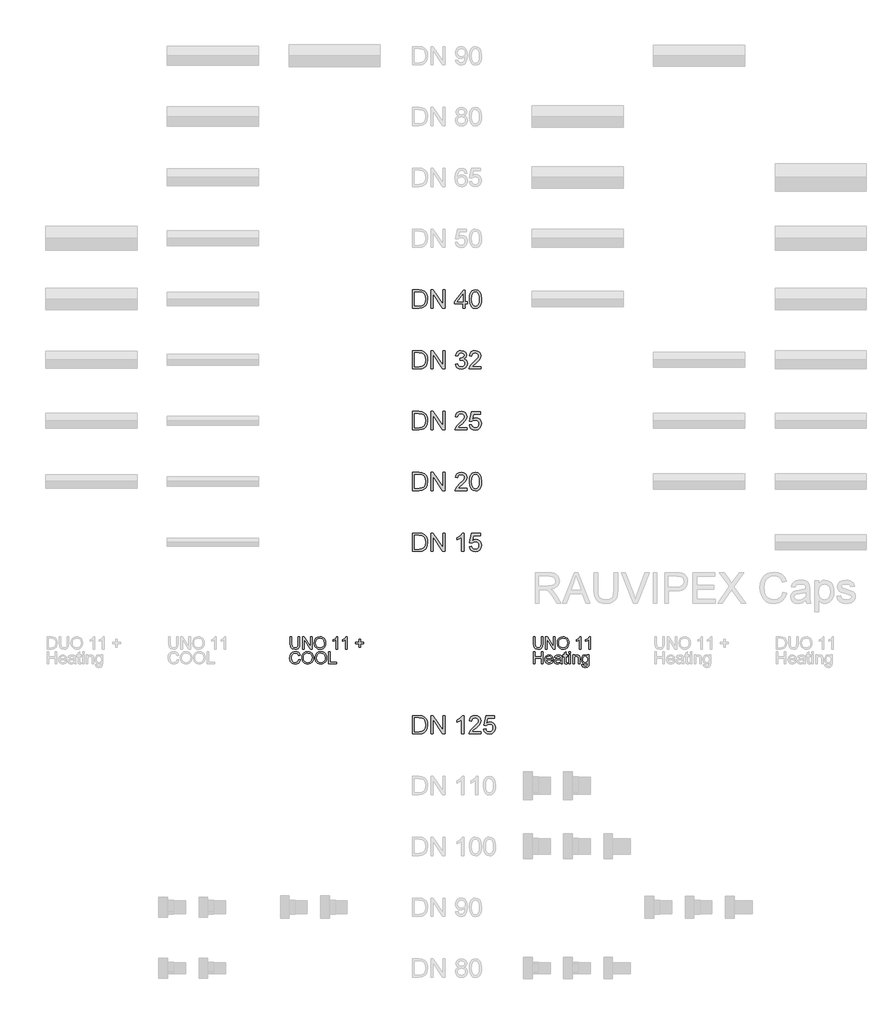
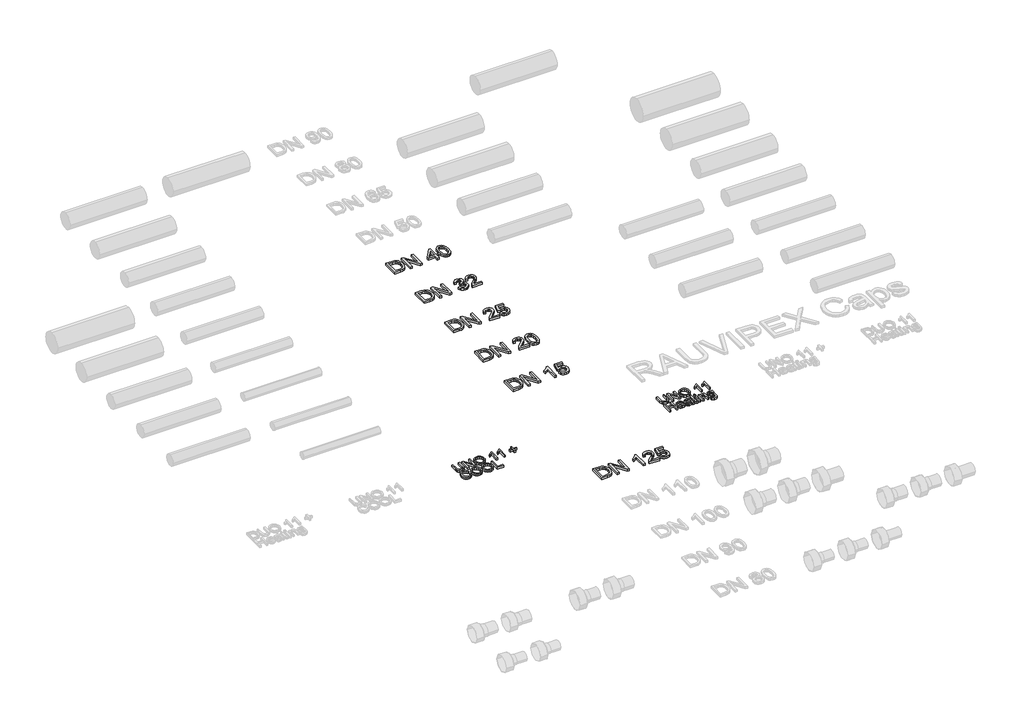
# One storey, part 27 of 44: 8 proxies.
"""IFC4 building model written with IfcOpenShell, lengths in millimetres."""

import ifcopenshell
import ifcopenshell.guid

model = None  # the IFC model being written
_history = None  # IfcOwnerHistory: only IFC2X3 demands one
_inside = {}  # id of a spatial element -> (the spatial element, [elements in it])
_under = {}  # id of a project, library or spatial element -> (it, [spatial elements below it])
_declared = {}  # id of a project -> (the project, [libraries it declares])
_typed = {}  # id of a type object -> (the type object, [elements of that type])
_made_of = {}  # id of a material, layer set ... -> (it, [elements and type objects made of it])


def new_model(schema):
    """Start an empty IFC model of exactly this schema.

    Asked for "IFC4X3", IfcOpenShell would pick the latest addendum, in which some entities
    have other attributes; the version numbers below select the first issue.
    IFC2X3 requires an IfcOwnerHistory on every rooted entity: one is made here for all.
    """
    global model, _history
    if schema == "IFC4X3":
        model = ifcopenshell.file(schema_version=(4, 3, 0, 0))
    else:
        model = ifcopenshell.file(schema=schema)
    _inside.clear()
    _under.clear()
    _declared.clear()
    _typed.clear()
    _made_of.clear()
    _history = None
    if model.schema == "IFC2X3":
        org = make("IfcOrganization", Name="unknown")
        user = make(
            "IfcPersonAndOrganization",
            ThePerson=make("IfcPerson", FamilyName="unknown"),
            TheOrganization=org,
        )
        app = make(
            "IfcApplication",
            ApplicationDeveloper=org,
            Version="unknown",
            ApplicationFullName="unknown",
            ApplicationIdentifier="unknown",
        )
        _history = make(
            "IfcOwnerHistory",
            OwningUser=user,
            OwningApplication=app,
            ChangeAction="ADDED",
            CreationDate=0,
        )
    return model


def make(cls, **values):
    """One entity of the class cls with the attributes given. An attribute that is None is left unset."""
    return model.create_entity(
        cls, **{name: value for name, value in values.items() if value is not None}
    )


def rooted(cls, **values):
    """An entity with a GlobalId (a new one), such as an element, a storey or a relation."""
    return make(cls, GlobalId=ifcopenshell.guid.new(), OwnerHistory=_history, **values)


def si_unit(unit_type, name, prefix=None):
    """IfcSIUnit, for example si_unit("LENGTHUNIT", "METRE", prefix="MILLI")."""
    return make("IfcSIUnit", UnitType=unit_type, Prefix=prefix, Name=name)


def assignment(units):
    """IfcUnitAssignment: the units of a project."""
    return None if units is None else make("IfcUnitAssignment", Units=units)


def point(xyz):
    """IfcCartesianPoint."""
    return None if xyz is None else make("IfcCartesianPoint", Coordinates=xyz)


def direction(xyz):
    """IfcDirection."""
    return None if xyz is None else make("IfcDirection", DirectionRatios=xyz)


def frame(location, z_axis=None, x_axis=None):
    """IfcAxis2Placement3D, a coordinate frame: its origin and axes. An axis left out is left unset."""
    return make(
        "IfcAxis2Placement3D",
        Location=point(location),
        Axis=direction(z_axis),
        RefDirection=direction(x_axis),
    )


def origin():
    """The frame at (0, 0, 0) with its axes left unset."""
    return frame((0.0, 0.0, 0.0))


def origin_with_axes():
    """The frame at (0, 0, 0) with the z axis (0, 0, 1) and the x axis (1, 0, 0) written out."""
    return frame((0.0, 0.0, 0.0), z_axis=(0.0, 0.0, 1.0), x_axis=(1.0, 0.0, 0.0))


def place(relative_to, where):
    """IfcLocalPlacement: puts the frame where relative to a parent placement (None: the world)."""
    return make(
        "IfcLocalPlacement", PlacementRelTo=relative_to, RelativePlacement=where
    )


def context(
    kind, dimensions, precision=None, world=None, true_north=None, identifier=None
):
    """IfcGeometricRepresentationContext, for example the 3D "Model" context."""
    return make(
        "IfcGeometricRepresentationContext",
        ContextIdentifier=identifier,
        ContextType=kind,
        CoordinateSpaceDimension=dimensions,
        Precision=precision,
        WorldCoordinateSystem=world,
        TrueNorth=true_north,
    )


def project(units=None, contexts=None):
    """IfcProject with its units and contexts."""
    return rooted(
        "IfcProject",
        Name="project",
        RepresentationContexts=contexts,
        UnitsInContext=assignment(units),
    )


def spatial(cls, under=None, at=None, **own):
    """A site, building, storey or space (cls), placed at a placement, below another one or the project."""
    s = rooted(cls, ObjectPlacement=at, **own)
    if under is not None:
        _under.setdefault(under.id(), (under, []))[1].append(s)
    return s


def polyline(points):
    """IfcPolyline through the points."""
    return make("IfcPolyline", Points=[point(p) for p in points])


def outline(outer, holes=None, kind="AREA"):
    """IfcArbitraryClosedProfileDef: a profile drawn as a closed curve; with holes, ...WithVoids."""
    if holes is None:
        return make("IfcArbitraryClosedProfileDef", ProfileType=kind, OuterCurve=outer)
    return make(
        "IfcArbitraryProfileDefWithVoids",
        ProfileType=kind,
        OuterCurve=outer,
        InnerCurves=holes,
    )


def extrude(swept, where, along, depth):
    """IfcExtrudedAreaSolid: the profile swept, set in the frame where, extruded along a direction by depth."""
    return make(
        "IfcExtrudedAreaSolid",
        SweptArea=swept,
        Position=where,
        ExtrudedDirection=direction(along),
        Depth=depth,
    )


def shape(context_of_items, identifier, shape_type, items):
    """IfcShapeRepresentation: the items that make up one representation, for example the "Body"."""
    return make(
        "IfcShapeRepresentation",
        ContextOfItems=context_of_items,
        RepresentationIdentifier=identifier,
        RepresentationType=shape_type,
        Items=items,
    )


def made_of(thing, what):
    """Note that an element or type object is made of a material, layer set ...; save() writes the relation."""
    if what is not None:
        _made_of.setdefault(what.id(), (what, []))[1].append(thing)
    return thing


def element(
    cls,
    number,
    at=None,
    inside=None,
    cuts=None,
    type_object=None,
    material=None,
    context=None,
    identifier="Body",
    shape_type=None,
    held_by="IfcProductDefinitionShape",
    body=None,
    shapes=None,
    **own,
):
    """One element of the class cls, such as IfcWall. Its Tag is "e" and its number.

    at: its placement. inside: the storey or other place that contains it. cuts: it is an
    opening in that element (IfcRelVoidsElement). A single representation is given by context,
    identifier, shape_type and body (its items); several are given by shapes. held_by: the class
    of the entity that holds the representations. save() writes the other relations.
    """
    e = rooted(cls, Tag="e%d" % number, ObjectPlacement=at, **own)
    if body is not None:
        shapes = [shape(context, identifier, shape_type, body)]
    if shapes is not None:
        e.Representation = make(held_by, Representations=shapes)
    if inside is not None:
        _inside.setdefault(inside.id(), (inside, []))[1].append(e)
    if cuts is not None:
        rooted(
            "IfcRelVoidsElement", RelatingBuildingElement=cuts, RelatedOpeningElement=e
        )
    if type_object is not None:
        _typed.setdefault(type_object.id(), (type_object, []))[1].append(e)
    return made_of(e, material)


def aggregate(whole, parts):
    """IfcRelAggregates: a whole, such as a stair, and the parts it consists of."""
    return rooted("IfcRelAggregates", RelatingObject=whole, RelatedObjects=parts)


def save(model, path):
    """Write the relations noted so far, then the file.

    IfcRelAggregates (storeys below a building ...), IfcRelContainedInSpatialStructure (elements
    in a storey), IfcRelDefinesByType, IfcRelAssociatesMaterial and IfcRelDeclares: one each for
    every whole, place, type object, material and project.
    """
    for whole, parts in _under.values():
        aggregate(whole, parts)
    for where, things in _inside.values():
        rooted(
            "IfcRelContainedInSpatialStructure",
            RelatedElements=things,
            RelatingStructure=where,
        )
    for kind, things in _typed.values():
        rooted("IfcRelDefinesByType", RelatedObjects=things, RelatingType=kind)
    for what, things in _made_of.values():
        rooted("IfcRelAssociatesMaterial", RelatedObjects=things, RelatingMaterial=what)
    for by, libraries in _declared.values():
        rooted("IfcRelDeclares", RelatingContext=by, RelatedDefinitions=libraries)
    model.write(path)


model = new_model("IFC4")

# Units and contexts
model_context = context("Model", 3, world=origin())
ifc_project = project(units=[si_unit("LENGTHUNIT", "METRE", prefix="MILLI")], contexts=[model_context])

# Site, building, storey
site = spatial("IfcSite", under=ifc_project)
building = spatial("IfcBuilding", under=site)
storey = spatial("IfcBuildingStorey", under=building, Name="REHAU Starting view", Elevation=0.0)

# Proxies
placement = place(None, origin())
element("IfcBuildingElementProxy", 1, Name="100", ObjectType="100", at=placement, inside=storey, context=model_context, shape_type="SweptSolid", body=[
    extrude(outline(polyline([(25076.9118625, 13222.431128), (25089.4689012, 13222.431128), (25089.4689012, 13164.477451), (25086.0598614, 13140.4547567), (25073.7726028, 13125.9847316), (25063.5086951, 13121.8000739), (25050.4734097, 13120.405188), (25027.529836, 13125.2612303), (25019.8901532, 13131.2055902), (25014.8011189, 13139.3265853), (25010.9874089, 13164.477451), (25010.9874089, 13222.431128), (25023.5444477, 13222.431128), (25023.5444477, 13164.9189094), (25026.0215198, 13145.7767829), (25034.5318566, 13136.2976902), (25049.2961874, 13132.9622268), (25062.067824, 13134.6115644), (25070.5597667, 13139.5595772), (25075.3238385, 13149.1980855), (25076.9118625, 13164.9189094), (25076.9118625, 13222.431128)])), origin_with_axes(), (0.0, 0.0, 1.0), 20.0),
    extrude(outline(polyline([(25111.4437191, 13121.9748178), (25111.4437191, 13222.431128), (25124.8836746, 13222.431128), (25177.3681726, 13142.8459897), (25177.3681726, 13222.431128), (25189.9252114, 13222.431128), (25189.9252114, 13121.9748178), (25176.4852558, 13121.9748178), (25124.0007578, 13201.5844816), (25124.0007578, 13121.9748178), (25111.4437191, 13121.9748178)])), origin_with_axes(), (0.0, 0.0, 1.0), 20.0),
    extrude(outline(polyline([(25207.1911397, 13170.8785977), (25210.5388658, 13193.0925389), (25220.5820443, 13209.8986147), (25235.9165921, 13220.4752221), (25255.1384264, 13224.0007578), (25268.3147332, 13222.3452889), (25280.1298766, 13217.3788819), (25289.9400631, 13209.4510249), (25297.1014993, 13198.9112058), (25301.479295, 13186.2683279), (25302.9385603, 13172.0312947), (25301.402653, 13157.6041891), (25296.794931, 13144.7835015), (25289.369846, 13134.2252883), (25279.3818499, 13126.5856055), (25267.667874, 13121.9502924), (25255.06485, 13120.405188), (25241.6862081, 13122.1127736), (25229.8036197, 13127.2355304), (25220.0179586, 13135.3105402), (25212.9300988, 13145.8748848), (25207.1911397, 13170.8785977)]), holes=[polyline([(25219.7481785, 13170.7559704), (25222.2589731, 13155.0412778), (25229.7913569, 13143.0667189), (25241.1129253, 13135.4883498), (25254.9912736, 13132.9622268), (25269.071957, 13135.5128753), (25280.4119195, 13143.1648208), (25287.889121, 13155.5072617), (25290.3815215, 13172.1293965), (25286.1140904, 13192.8534156), (25273.6428907, 13206.575414), (25255.2120028, 13211.4437191), (25241.7046022, 13209.0984714), (25230.2205526, 13202.0627282), (25222.366272, 13189.5455433), (25219.7481785, 13170.7559704)])]), origin_with_axes(), (0.0, 0.0, 1.0), 20.0),
    extrude(outline(polyline([(25401.8252406, 13121.9748178), (25389.2682018, 13121.9748178), (25389.2682018, 13200.2601064), (25377.3733507, 13191.7865578), (25364.1541243, 13185.4467247), (25364.1541243, 13197.3170505), (25382.5604868, 13209.0647488), (25393.7318367, 13222.431128), (25401.8252406, 13222.431128), (25401.8252406, 13121.9748178)])), origin_with_axes(), (0.0, 0.0, 1.0), 20.0),
    extrude(outline(polyline([(25478.7371031, 13121.9748178), (25466.1800643, 13121.9748178), (25466.1800643, 13200.2601064), (25454.2852131, 13191.7865578), (25441.0659868, 13185.4467247), (25441.0659868, 13197.3170505), (25459.4723492, 13209.0647488), (25470.6436992, 13222.431128), (25478.7371031, 13222.431128), (25478.7371031, 13121.9748178)])), origin_with_axes(), (0.0, 0.0, 1.0), 20.0),
    extrude(outline(polyline([(25576.0541535, 13137.6711163), (25576.0541535, 13164.3548237), (25549.3704461, 13164.3548237), (25549.3704461, 13176.9118625), (25576.0541535, 13176.9118625), (25576.0541535, 13203.5955698), (25588.6111923, 13203.5955698), (25588.6111923, 13176.9118625), (25615.2948997, 13176.9118625), (25615.2948997, 13164.3548237), (25588.6111923, 13164.3548237), (25588.6111923, 13137.6711163), (25576.0541535, 13137.6711163)])), origin_with_axes(), (0.0, 0.0, 1.0), 20.0),
    extrude(outline(polyline([(25081.620752, 13035.709079), (25094.1777908, 13032.4717174), (25088.3836493, 13017.8392111), (25079.2908327, 13007.1491734), (25067.3469306, 13000.610071), (25052.9995328, 12998.4303702), (25038.4344714, 13000.0797078), (25026.8676484, 13005.0277206), (25018.0016923, 13013.1027304), (25011.5392319, 13024.1330589), (25006.2785194, 13050.9884445), (25007.7653758, 13065.6362793), (25012.225945, 13078.2852886), (25019.427235, 13088.5338678), (25029.136254, 13095.9804125), (25040.6509605, 13100.5145581), (25053.2693129, 13102.02594), (25067.0372966, 13100.0700341), (25078.4201786, 13094.2023162), (25087.0623398, 13084.7845372), (25092.6081609, 13072.1784475), (25080.0511222, 13069.1863406), (25069.7504263, 13084.6251216), (25052.7788036, 13089.4689012), (25033.133905, 13084.0978241), (25022.0361315, 13069.6768499), (25018.8355582, 13051.01297), (25022.6247427, 13029.3815087), (25034.421492, 13015.5614084), (25051.748734, 13010.9874089), (25062.2303052, 13012.544776), (25070.9644369, 13017.2168774), (25077.5587216, 13024.954662), (25081.620752, 13035.709079)])), origin_with_axes(), (0.0, 0.0, 1.0), 20.0),
    extrude(outline(polyline([(25106.7348295, 13048.9037799), (25110.0825557, 13071.117721), (25120.1257342, 13087.9237968), (25135.460282, 13098.5004042), (25154.6821162, 13102.02594), (25167.858423, 13100.370471), (25179.6735664, 13095.4040641), (25189.483753, 13087.4762071), (25196.6451892, 13076.9363879), (25201.0229849, 13064.29351), (25202.4822501, 13050.0564768), (25200.9463428, 13035.6293712), (25196.3386208, 13022.8086837), (25188.9135359, 13012.2504704), (25178.9255397, 13004.6107877), (25167.2115639, 12999.9754745), (25154.6085398, 12998.4303702), (25141.2298979, 13000.1379557), (25129.3473095, 13005.2607125), (25119.5616484, 13013.3357223), (25112.4737887, 13023.900067), (25106.7348295, 13048.9037799)]), holes=[polyline([(25119.2918683, 13048.7811526), (25121.8026629, 13033.06646), (25129.3350468, 13021.0919011), (25140.6566152, 13013.513532), (25154.5349634, 13010.9874089), (25168.6156468, 13013.5380574), (25179.9556093, 13021.1900029), (25187.4328109, 13033.5324439), (25189.9252114, 13050.1545787), (25185.6577802, 13070.8785977), (25173.1865806, 13084.6005962), (25154.7556926, 13089.4689012), (25141.248292, 13087.1236535), (25129.7642424, 13080.0879103), (25121.9099618, 13067.5707255), (25119.2918683, 13048.7811526)])]), origin_with_axes(), (0.0, 0.0, 1.0), 20.0),
    extrude(outline(polyline([(25215.0392889, 13048.9037799), (25218.3870151, 13071.117721), (25228.4301935, 13087.9237968), (25243.7647414, 13098.5004042), (25262.9865756, 13102.02594), (25276.1628824, 13100.370471), (25287.9780258, 13095.4040641), (25297.7882124, 13087.4762071), (25304.9496485, 13076.9363879), (25309.3274443, 13064.29351), (25310.7867095, 13050.0564768), (25309.2508022, 13035.6293712), (25304.6430802, 13022.8086837), (25297.2179953, 13012.2504704), (25287.2299991, 13004.6107877), (25275.5160232, 12999.9754745), (25262.9129992, 12998.4303702), (25249.5343573, 13000.1379557), (25237.6517689, 13005.2607125), (25227.8661078, 13013.3357223), (25220.778248, 13023.900067), (25215.0392889, 13048.9037799)]), holes=[polyline([(25227.5963277, 13048.7811526), (25230.1071223, 13033.06646), (25237.6395062, 13021.0919011), (25248.9610746, 13013.513532), (25262.8394228, 13010.9874089), (25276.9201062, 13013.5380574), (25288.2600687, 13021.1900029), (25295.7372702, 13033.5324439), (25298.2296708, 13050.1545787), (25293.9622396, 13070.8785977), (25281.49104, 13084.6005962), (25263.060152, 13089.4689012), (25249.5527514, 13087.1236535), (25238.0687018, 13080.0879103), (25230.2144212, 13067.5707255), (25227.5963277, 13048.7811526)])]), origin_with_axes(), (0.0, 0.0, 1.0), 20.0),
    extrude(outline(polyline([(25328.0526378, 13000.0), (25328.0526378, 13100.4563101), (25340.6096766, 13100.4563101), (25340.6096766, 13012.5570388), (25390.8378317, 13012.5570388), (25390.8378317, 13000.0), (25328.0526378, 13000.0)])), origin_with_axes(), (0.0, 0.0, 1.0), 20.0),
])
element("IfcBuildingElementProxy", 2, Name="100", ObjectType="100", at=placement, inside=storey, context=model_context, shape_type="SweptSolid", body=[
    extrude(outline(polyline([(27076.9118625, 13222.431128), (27089.4689012, 13222.431128), (27089.4689012, 13164.477451), (27086.0598614, 13140.4547567), (27073.7726028, 13125.9847316), (27063.5086951, 13121.8000739), (27050.4734097, 13120.405188), (27027.529836, 13125.2612303), (27019.8901532, 13131.2055902), (27014.8011189, 13139.3265853), (27010.9874089, 13164.477451), (27010.9874089, 13222.431128), (27023.5444477, 13222.431128), (27023.5444477, 13164.9189094), (27026.0215198, 13145.7767829), (27034.5318566, 13136.2976902), (27049.2961874, 13132.9622268), (27062.067824, 13134.6115644), (27070.5597667, 13139.5595772), (27075.3238385, 13149.1980855), (27076.9118625, 13164.9189094), (27076.9118625, 13222.431128)])), origin_with_axes(), (0.0, 0.0, 1.0), 20.0),
    extrude(outline(polyline([(27111.4437191, 13121.9748178), (27111.4437191, 13222.431128), (27124.8836746, 13222.431128), (27177.3681726, 13142.8459897), (27177.3681726, 13222.431128), (27189.9252114, 13222.431128), (27189.9252114, 13121.9748178), (27176.4852558, 13121.9748178), (27124.0007578, 13201.5844816), (27124.0007578, 13121.9748178), (27111.4437191, 13121.9748178)])), origin_with_axes(), (0.0, 0.0, 1.0), 20.0),
    extrude(outline(polyline([(27207.1911397, 13170.8785977), (27210.5388658, 13193.0925389), (27220.5820443, 13209.8986147), (27235.9165921, 13220.4752221), (27255.1384264, 13224.0007578), (27268.3147332, 13222.3452889), (27280.1298766, 13217.3788819), (27289.9400631, 13209.4510249), (27297.1014993, 13198.9112058), (27301.479295, 13186.2683279), (27302.9385603, 13172.0312947), (27301.402653, 13157.6041891), (27296.794931, 13144.7835015), (27289.369846, 13134.2252883), (27279.3818499, 13126.5856055), (27267.667874, 13121.9502924), (27255.06485, 13120.405188), (27241.6862081, 13122.1127736), (27229.8036197, 13127.2355304), (27220.0179586, 13135.3105402), (27212.9300988, 13145.8748848), (27207.1911397, 13170.8785977)]), holes=[polyline([(27219.7481785, 13170.7559704), (27222.2589731, 13155.0412778), (27229.7913569, 13143.0667189), (27241.1129253, 13135.4883498), (27254.9912736, 13132.9622268), (27269.071957, 13135.5128753), (27280.4119195, 13143.1648208), (27287.889121, 13155.5072617), (27290.3815215, 13172.1293965), (27286.1140904, 13192.8534156), (27273.6428907, 13206.575414), (27255.2120028, 13211.4437191), (27241.7046022, 13209.0984714), (27230.2205526, 13202.0627282), (27222.366272, 13189.5455433), (27219.7481785, 13170.7559704)])]), origin_with_axes(), (0.0, 0.0, 1.0), 20.0),
    extrude(outline(polyline([(27401.8252406, 13121.9748178), (27389.2682018, 13121.9748178), (27389.2682018, 13200.2601064), (27377.3733507, 13191.7865578), (27364.1541243, 13185.4467247), (27364.1541243, 13197.3170505), (27382.5604868, 13209.0647488), (27393.7318367, 13222.431128), (27401.8252406, 13222.431128), (27401.8252406, 13121.9748178)])), origin_with_axes(), (0.0, 0.0, 1.0), 20.0),
    extrude(outline(polyline([(27478.7371031, 13121.9748178), (27466.1800643, 13121.9748178), (27466.1800643, 13200.2601064), (27454.2852131, 13191.7865578), (27441.0659868, 13185.4467247), (27441.0659868, 13197.3170505), (27459.4723492, 13209.0647488), (27470.6436992, 13222.431128), (27478.7371031, 13222.431128), (27478.7371031, 13121.9748178)])), origin_with_axes(), (0.0, 0.0, 1.0), 20.0),
    extrude(outline(polyline([(27010.9874089, 13000.0), (27010.9874089, 13100.4563101), (27023.5444477, 13100.4563101), (27023.5444477, 13059.6459342), (27076.9118625, 13059.6459342), (27076.9118625, 13100.4563101), (27089.4689012, 13100.4563101), (27089.4689012, 13000.0), (27076.9118625, 13000.0), (27076.9118625, 13047.0888954), (27023.5444477, 13047.0888954), (27023.5444477, 13000.0), (27010.9874089, 13000.0)])), origin_with_axes(), (0.0, 0.0, 1.0), 20.0),
    extrude(outline(polyline([(27161.5247213, 13021.9748178), (27173.8365055, 13020.405188), (27169.4004617, 13011.1284304), (27162.321799, 13004.1938547), (27152.7599328, 12999.8712413), (27140.8742787, 12998.4303702), (27126.1406048, 13000.9166393), (27114.803708, 13008.3754468), (27107.5748268, 13020.3224146), (27105.1651997, 13036.2731647), (27107.5993522, 13052.7604095), (27114.9018098, 13065.0905877), (27126.0854225, 13072.7793214), (27140.1630402, 13075.3422326), (27153.8022651, 13072.7854527), (27164.7007692, 13065.1151131), (27171.846877, 13052.8094604), (27174.2289129, 13036.3467411), (27174.1553365, 13032.9622268), (27117.7222385, 13032.9622268), (27119.8958079, 13023.5628418), (27124.9449883, 13016.6527916), (27132.2321175, 13012.4037546), (27141.1195333, 13010.9874089), (27153.4313175, 13013.6116338), (27161.5247213, 13021.9748178)]), holes=[polyline([(27117.7222385, 13045.5192655), (27161.6718741, 13045.5192655), (27156.6441535, 13056.8990819), (27149.3233018, 13061.3136659), (27140.1139892, 13062.7851938), (27124.6506827, 13058.088567), (27119.7854433, 13052.5979283), (27117.7222385, 13045.5192655)])]), origin_with_axes(), (0.0, 0.0, 1.0), 20.0),
    extrude(outline(polyline([(27233.8748471, 13009.4177791), (27221.697953, 13000.9074423), (27208.2457347, 12998.4303702), (27197.7519008, 12999.9202922), (27190.0110505, 13004.3900585), (27185.2377816, 13011.1774813), (27183.646692, 13019.6203731), (27186.0501877, 13029.5531869), (27192.3654953, 13036.7636741), (27201.157875, 13040.8839524), (27212.0226566, 13042.7724133), (27233.8012707, 13047.0888954), (27233.8748471, 13049.8847985), (27230.4167563, 13059.1554248), (27216.5353424, 13062.7851938), (27203.8311508, 13060.3694354), (27197.7733606, 13051.7977849), (27185.2163218, 13053.3674148), (27190.6487126, 13065.6301479), (27201.5870706, 13072.8161096), (27218.1540231, 13075.3422326), (27233.372075, 13073.1104152), (27241.968251, 13067.5063461), (27245.8187492, 13058.9837466), (27246.4318858, 13047.9963376), (27246.4318858, 13032.3736156), (27247.069548, 13010.5582133), (27249.5711455, 13000.0), (27237.0141068, 13000.0), (27233.8748471, 13009.4177791)]), holes=[polyline([(27233.8748471, 13034.5318566), (27213.6168119, 13030.6813584), (27202.8133439, 13028.6457447), (27197.9205134, 13025.3348067), (27196.2037308, 13020.5032899), (27199.9438644, 13013.7097357), (27210.9190106, 13010.9874089), (27223.6232021, 13013.9917785), (27231.8147079, 13021.2635793), (27233.8012707, 13030.975664), (27233.8748471, 13034.5318566)])]), origin_with_axes(), (0.0, 0.0, 1.0), 20.0),
    extrude(outline(polyline([(27290.3815215, 13010.4723741), (27291.9511514, 12999.632118), (27282.5578978, 12998.4303702), (27272.0364727, 13000.5150348), (27266.7880229, 13005.9842138), (27265.267444, 13020.2335097), (27265.267444, 13061.215564), (27255.8496649, 13061.215564), (27255.8496649, 13073.7726028), (27265.267444, 13073.7726028), (27265.267444, 13091.7007187), (27277.8244828, 13099.082884), (27277.8244828, 13073.7726028), (27290.3815215, 13073.7726028), (27290.3815215, 13061.215564), (27277.8244828, 13061.215564), (27277.8244828, 13020.6013917), (27278.4866703, 13014.1266686), (27280.6326487, 13011.8335375), (27284.9123425, 13010.9874089), (27290.3815215, 13010.4723741)])), origin_with_axes(), (0.0, 0.0, 1.0), 20.0),
    extrude(outline(polyline([(27302.9385603, 13087.8992714), (27302.9385603, 13100.4563101), (27315.4955991, 13100.4563101), (27315.4955991, 13087.8992714), (27302.9385603, 13087.8992714)])), origin_with_axes(), (0.0, 0.0, 1.0), 20.0),
    extrude(outline(polyline([(27302.9385603, 13000.0), (27302.9385603, 13073.7726028), (27315.4955991, 13073.7726028), (27315.4955991, 13000.0), (27302.9385603, 13000.0)])), origin_with_axes(), (0.0, 0.0, 1.0), 20.0),
    extrude(outline(polyline([(27334.3311572, 13000.0), (27334.3311572, 13073.7726028), (27346.888196, 13073.7726028), (27346.888196, 13063.4719069), (27356.4899161, 13072.3746512), (27369.5987778, 13075.3422326), (27381.4568408, 13072.9509996), (27389.5502447, 13066.6724803), (27393.3149038, 13057.4386422), (27393.9770914, 13045.2985363), (27393.9770914, 13000.0), (27381.4200526, 13000.0), (27381.4200526, 13043.6062792), (27379.9730501, 13054.7163154), (27374.8594904, 13060.5901646), (27366.2387889, 13062.7851938), (27352.6148924, 13057.8555751), (27348.3198701, 13050.712533), (27346.888196, 13039.1426443), (27346.888196, 13000.0), (27334.3311572, 13000.0)])), origin_with_axes(), (0.0, 0.0, 1.0), 20.0),
    extrude(outline(polyline([(27408.10376, 12993.7214806), (27420.6607988, 12992.1518508), (27424.7320262, 12985.5299749), (27436.9211829, 12982.7340717), (27449.7725273, 12985.8978569), (27455.9038939, 12994.7760757), (27456.7622852, 13009.4177791), (27447.9208546, 13002.3544448), (27437.1419121, 13000.0), (27424.1955316, 13002.7407209), (27414.5416949, 13010.9628835), (27408.5360213, 13023.0171502), (27406.5341301, 13037.2541834), (27410.127111, 13056.7151409), (27420.5259087, 13070.4861903), (27436.5287755, 13075.3422326), (27447.7307822, 13072.5953804), (27456.7622852, 13064.3548237), (27456.7622852, 13073.7726028), (27469.319324, 13073.7726028), (27469.319324, 13010.0799667), (27465.8857587, 12985.6893904), (27455.0087144, 12974.3463622), (27436.6759283, 12970.1770329), (27424.9926092, 12971.6454952), (27415.7924937, 12976.0508821), (27409.8910533, 12983.4054563), (27408.10376, 12993.7214806)]), holes=[polyline([(27419.0911689, 13038.1125747), (27420.4308725, 13026.5948026), (27424.4499833, 13018.6761426), (27430.4924451, 13014.0868147), (27437.9022016, 13012.5570388), (27445.2567758, 13014.0776177), (27451.3298944, 13018.6393544), (27455.4041875, 13026.4568468), (27456.7622852, 13037.7446927), (27455.3643336, 13048.6309341), (27451.1704789, 13056.4698863), (27445.0084555, 13061.2063669), (27437.7059979, 13062.7851938), (27430.5353646, 13061.2308924), (27424.5235597, 13056.5679881), (27420.4492666, 13048.8455319), (27419.0911689, 13038.1125747)])]), origin_with_axes(), (0.0, 0.0, 1.0), 20.0),
])
element("IfcBuildingElementProxy", 3, Name="150", ObjectType="150", at=placement, inside=storey, context=model_context, shape_type="SweptSolid", body=[
    extrude(outline(polyline([(26016.4811134, 13925.0), (26016.4811134, 14075.6844652), (26068.4628393, 14075.6844652), (26095.3550131, 14073.5139615), (26117.5015093, 14062.735019), (26127.9217668, 14051.2571007), (26135.343786, 14036.9832793), (26139.7859611, 14020.1894663), (26141.2666861, 14001.151573), (26137.2567724, 13970.7461261), (26126.9560765, 13948.8019651), (26113.1972899, 13935.135149), (26095.1894663, 13927.575174), (26070.9644369, 13925.0), (26016.4811134, 13925.0)]), holes=[polyline([(26035.3166715, 13943.8355582), (26068.6467803, 13943.8355582), (26092.8902038, 13946.5578849), (26106.8697196, 13954.2466186), (26118.3292437, 13972.9534181), (26122.431128, 14001.4458786), (26120.4215726, 14021.9736939), (26114.3929064, 14037.1304321), (26105.4855636, 14047.5414926), (26094.8399784, 14053.8322747), (26068.1317455, 14056.8489071), (26035.3166715, 14056.8489071), (26035.3166715, 13943.8355582)])]), origin_with_axes(), (0.0, 0.0, 1.0), 20.0),
    extrude(outline(polyline([(26167.1655786, 13925.0), (26167.1655786, 14075.6844652), (26187.3255119, 14075.6844652), (26266.0522589, 13956.3067578), (26266.0522589, 14075.6844652), (26284.8878171, 14075.6844652), (26284.8878171, 13925.0), (26264.7278837, 13925.0), (26186.0011368, 14044.4144956), (26186.0011368, 13925.0), (26167.1655786, 13925.0)])), origin_with_axes(), (0.0, 0.0, 1.0), 20.0),
    extrude(outline(polyline([(26440.2811718, 13925.0), (26421.4456137, 13925.0), (26421.4456137, 14042.4279329), (26403.6033369, 14029.7176099), (26383.7744974, 14020.2078604), (26383.7744974, 14038.0133489), (26411.3840411, 14055.6348965), (26428.141066, 14075.6844652), (26440.2811718, 14075.6844652), (26440.2811718, 13925.0)])), origin_with_axes(), (0.0, 0.0, 1.0), 20.0),
    extrude(outline(polyline([(26485.0156224, 13965.0255611), (26503.8511806, 13967.3800058), (26507.3092713, 13956.072233), (26513.3425361, 13947.9742306), (26521.9233836, 13943.1043927), (26533.0242228, 13941.4811134), (26546.525492, 13943.7389891), (26556.6422469, 13950.5126164), (26562.9606202, 13961.0202459), (26565.0667446, 13974.4801284), (26563.0939774, 13987.1536631), (26557.1756758, 13996.8473537), (26547.2658545, 14003.00018), (26533.3185284, 14005.0511222), (26516.7822327, 14001.7769724), (26506.2056254, 13993.2788983), (26487.3700672, 13995.6333431), (26503.8511806, 14073.3300205), (26576.8389684, 14073.3300205), (26576.8389684, 14054.4944623), (26519.0814952, 14054.4944623), (26511.0248795, 14012.9973732), (26524.4801635, 14021.1643535), (26538.5792409, 14023.8866803), (26556.1777959, 14020.511363), (26570.7873096, 14010.3854111), (26580.6235545, 13994.9527614), (26583.9023027, 13975.6573507), (26580.9500497, 13956.8217926), (26572.0932907, 13940.7085612), (26555.1339307, 13927.1613067), (26532.9506464, 13922.6455552), (26514.4507806, 13925.5472245), (26499.7125081, 13934.2522322), (26489.6095489, 13947.7489029), (26485.0156224, 13965.0255611)])), origin_with_axes(), (0.0, 0.0, 1.0), 20.0),
])
element("IfcBuildingElementProxy", 4, Name="150", ObjectType="150", at=placement, inside=storey, context=model_context, shape_type="SweptSolid", body=[
    extrude(outline(polyline([(26016.4811134, 14425.0), (26016.4811134, 14575.6844652), (26068.4628393, 14575.6844652), (26095.3550131, 14573.5139615), (26117.5015093, 14562.735019), (26127.9217668, 14551.2571007), (26135.343786, 14536.9832793), (26139.7859611, 14520.1894663), (26141.2666861, 14501.151573), (26137.2567724, 14470.7461261), (26126.9560765, 14448.8019651), (26113.1972899, 14435.135149), (26095.1894663, 14427.575174), (26070.9644369, 14425.0), (26016.4811134, 14425.0)]), holes=[polyline([(26035.3166715, 14443.8355582), (26068.6467803, 14443.8355582), (26092.8902038, 14446.5578849), (26106.8697196, 14454.2466186), (26118.3292437, 14472.9534181), (26122.431128, 14501.4458786), (26120.4215726, 14521.9736939), (26114.3929064, 14537.1304321), (26105.4855636, 14547.5414926), (26094.8399784, 14553.8322747), (26068.1317455, 14556.8489071), (26035.3166715, 14556.8489071), (26035.3166715, 14443.8355582)])]), origin_with_axes(), (0.0, 0.0, 1.0), 20.0),
    extrude(outline(polyline([(26167.1655786, 14425.0), (26167.1655786, 14575.6844652), (26187.3255119, 14575.6844652), (26266.0522589, 14456.3067578), (26266.0522589, 14575.6844652), (26284.8878171, 14575.6844652), (26284.8878171, 14425.0), (26264.7278837, 14425.0), (26186.0011368, 14544.4144956), (26186.0011368, 14425.0), (26167.1655786, 14425.0)])), origin_with_axes(), (0.0, 0.0, 1.0), 20.0),
    extrude(outline(polyline([(26466.1800643, 14443.8355582), (26466.1800643, 14425.0), (26367.293384, 14425.0), (26369.316735, 14437.9862344), (26380.757865, 14457.9806209), (26404.3391009, 14479.8144173), (26436.8598693, 14511.1947515), (26442.9575133, 14522.0104821), (26444.9900614, 14532.5319072), (26443.0724765, 14541.9634818), (26437.3197218, 14549.8039669), (26428.4767583, 14555.087672), (26417.2885471, 14556.8489071), (26405.5393159, 14555.1290587), (26396.4112439, 14549.9695138), (26390.5205335, 14541.7749423), (26388.4833869, 14530.9500146), (26369.6478288, 14533.3044594), (26374.214164, 14551.5238152), (26384.0871971, 14564.8319464), (26398.7518931, 14572.9713355), (26417.6932173, 14575.6844652), (26436.7724973, 14572.6678329), (26451.4096022, 14563.6179358), (26460.7216152, 14550.0982725), (26463.8256195, 14533.6723414), (26460.4778934, 14515.8116705), (26449.349463, 14497.3439944), (26422.3653187, 14471.5370724), (26400.6970691, 14453.4188841), (26392.1989951, 14443.8355582), (26466.1800643, 14443.8355582)])), origin_with_axes(), (0.0, 0.0, 1.0), 20.0),
    extrude(outline(polyline([(26485.0156224, 14499.128222), (26486.3997784, 14523.2474853), (26490.5522465, 14542.4831152), (26497.4316398, 14557.1294171), (26506.9965717, 14567.4806967), (26519.31602, 14573.6335231), (26534.4589626, 14575.6844652), (26556.4583059, 14570.8284229), (26571.6518323, 14556.830513), (26580.4810002, 14534.5368641), (26583.9023027, 14499.128222), (26582.5319423, 14475.1469145), (26578.420861, 14455.9572699), (26571.5828544, 14441.2971724), (26562.0317181, 14430.904506), (26549.6846787, 14424.7102929), (26534.4589626, 14422.6455552), (26514.8876404, 14426.2324047), (26500.0252078, 14436.992953), (26488.7680188, 14462.4779783), (26485.0156224, 14499.128222)]), holes=[polyline([(26503.8511806, 14499.1650102), (26506.0584726, 14469.536714), (26512.6803485, 14452.3888145), (26522.5395859, 14444.2080387), (26534.4589626, 14441.4811134), (26546.3783392, 14444.2172357), (26556.2375767, 14452.4256027), (26562.8594526, 14469.5826993), (26565.0667446, 14499.1650102), (26562.933029, 14528.1265203), (26556.5318823, 14545.407777), (26546.6910389, 14553.9886246), (26534.2382334, 14556.8489071), (26522.4476155, 14554.3289154), (26512.9746541, 14546.7689404), (26506.132049, 14528.4116288), (26503.8511806, 14499.1650102)])]), origin_with_axes(), (0.0, 0.0, 1.0), 20.0),
])
element("IfcBuildingElementProxy", 5, Name="150", ObjectType="150", at=placement, inside=storey, context=model_context, shape_type="SweptSolid", body=[
    extrude(outline(polyline([(26016.4811134, 14925.0), (26016.4811134, 15075.6844652), (26068.4628393, 15075.6844652), (26095.3550131, 15073.5139615), (26117.5015093, 15062.735019), (26127.9217668, 15051.2571007), (26135.343786, 15036.9832793), (26139.7859611, 15020.1894663), (26141.2666861, 15001.151573), (26137.2567724, 14970.7461261), (26126.9560765, 14948.8019651), (26113.1972899, 14935.135149), (26095.1894663, 14927.575174), (26070.9644369, 14925.0), (26016.4811134, 14925.0)]), holes=[polyline([(26035.3166715, 14943.8355582), (26068.6467803, 14943.8355582), (26092.8902038, 14946.5578849), (26106.8697196, 14954.2466186), (26118.3292437, 14972.9534181), (26122.431128, 15001.4458786), (26120.4215726, 15021.9736939), (26114.3929064, 15037.1304321), (26105.4855636, 15047.5414926), (26094.8399784, 15053.8322747), (26068.1317455, 15056.8489071), (26035.3166715, 15056.8489071), (26035.3166715, 14943.8355582)])]), origin_with_axes(), (0.0, 0.0, 1.0), 20.0),
    extrude(outline(polyline([(26167.1655786, 14925.0), (26167.1655786, 15075.6844652), (26187.3255119, 15075.6844652), (26266.0522589, 14956.3067578), (26266.0522589, 15075.6844652), (26284.8878171, 15075.6844652), (26284.8878171, 14925.0), (26264.7278837, 14925.0), (26186.0011368, 15044.4144956), (26186.0011368, 14925.0), (26167.1655786, 14925.0)])), origin_with_axes(), (0.0, 0.0, 1.0), 20.0),
    extrude(outline(polyline([(26466.1800643, 14943.8355582), (26466.1800643, 14925.0), (26367.293384, 14925.0), (26369.316735, 14937.9862344), (26380.757865, 14957.9806209), (26404.3391009, 14979.8144173), (26436.8598693, 15011.1947515), (26442.9575133, 15022.0104821), (26444.9900614, 15032.5319072), (26443.0724765, 15041.9634818), (26437.3197218, 15049.8039669), (26428.4767583, 15055.087672), (26417.2885471, 15056.8489071), (26405.5393159, 15055.1290587), (26396.4112439, 15049.9695138), (26390.5205335, 15041.7749423), (26388.4833869, 15030.9500146), (26369.6478288, 15033.3044594), (26374.214164, 15051.5238152), (26384.0871971, 15064.8319464), (26398.7518931, 15072.9713355), (26417.6932173, 15075.6844652), (26436.7724973, 15072.6678329), (26451.4096022, 15063.6179358), (26460.7216152, 15050.0982725), (26463.8256195, 15033.6723414), (26460.4778934, 15015.8116705), (26449.349463, 14997.3439944), (26422.3653187, 14971.5370724), (26400.6970691, 14953.4188841), (26392.1989951, 14943.8355582), (26466.1800643, 14943.8355582)])), origin_with_axes(), (0.0, 0.0, 1.0), 20.0),
    extrude(outline(polyline([(26485.0156224, 14965.0255611), (26503.8511806, 14967.3800058), (26507.3092713, 14956.072233), (26513.3425361, 14947.9742306), (26521.9233836, 14943.1043927), (26533.0242228, 14941.4811134), (26546.525492, 14943.7389891), (26556.6422469, 14950.5126164), (26562.9606202, 14961.0202459), (26565.0667446, 14974.4801284), (26563.0939774, 14987.1536631), (26557.1756758, 14996.8473537), (26547.2658545, 15003.00018), (26533.3185284, 15005.0511222), (26516.7822327, 15001.7769724), (26506.2056254, 14993.2788983), (26487.3700672, 14995.6333431), (26503.8511806, 15073.3300205), (26576.8389684, 15073.3300205), (26576.8389684, 15054.4944623), (26519.0814952, 15054.4944623), (26511.0248795, 15012.9973732), (26524.4801635, 15021.1643535), (26538.5792409, 15023.8866803), (26556.1777959, 15020.511363), (26570.7873096, 15010.3854111), (26580.6235545, 14994.9527614), (26583.9023027, 14975.6573507), (26580.9500497, 14956.8217926), (26572.0932907, 14940.7085612), (26555.1339307, 14927.1613067), (26532.9506464, 14922.6455552), (26514.4507806, 14925.5472245), (26499.7125081, 14934.2522322), (26489.6095489, 14947.7489029), (26485.0156224, 14965.0255611)])), origin_with_axes(), (0.0, 0.0, 1.0), 20.0),
])
element("IfcBuildingElementProxy", 6, Name="150", ObjectType="150", at=placement, inside=storey, context=model_context, shape_type="SweptSolid", body=[
    extrude(outline(polyline([(26016.4811134, 15425.0), (26016.4811134, 15575.6844652), (26068.4628393, 15575.6844652), (26095.3550131, 15573.5139615), (26117.5015093, 15562.735019), (26127.9217668, 15551.2571007), (26135.343786, 15536.9832793), (26139.7859611, 15520.1894663), (26141.2666861, 15501.151573), (26137.2567724, 15470.7461261), (26126.9560765, 15448.8019651), (26113.1972899, 15435.135149), (26095.1894663, 15427.575174), (26070.9644369, 15425.0), (26016.4811134, 15425.0)]), holes=[polyline([(26035.3166715, 15443.8355582), (26068.6467803, 15443.8355582), (26092.8902038, 15446.5578849), (26106.8697196, 15454.2466186), (26118.3292437, 15472.9534181), (26122.431128, 15501.4458786), (26120.4215726, 15521.9736939), (26114.3929064, 15537.1304321), (26105.4855636, 15547.5414926), (26094.8399784, 15553.8322747), (26068.1317455, 15556.8489071), (26035.3166715, 15556.8489071), (26035.3166715, 15443.8355582)])]), origin_with_axes(), (0.0, 0.0, 1.0), 20.0),
    extrude(outline(polyline([(26167.1655786, 15425.0), (26167.1655786, 15575.6844652), (26187.3255119, 15575.6844652), (26266.0522589, 15456.3067578), (26266.0522589, 15575.6844652), (26284.8878171, 15575.6844652), (26284.8878171, 15425.0), (26264.7278837, 15425.0), (26186.0011368, 15544.4144956), (26186.0011368, 15425.0), (26167.1655786, 15425.0)])), origin_with_axes(), (0.0, 0.0, 1.0), 20.0),
    extrude(outline(polyline([(26369.6478288, 15465.0255611), (26388.4833869, 15467.3800058), (26392.7002343, 15455.5434026), (26398.8760533, 15447.5511663), (26407.3143465, 15442.9986266), (26418.3186167, 15441.4811134), (26431.2312747, 15443.5688437), (26441.2008768, 15449.8320347), (26447.5744324, 15459.1762374), (26449.6989509, 15470.5070028), (26447.5928265, 15481.2629526), (26441.2744532, 15489.9863544), (26431.7095213, 15495.7667003), (26419.8637211, 15497.6934822), (26406.6567575, 15495.6333431), (26408.7536848, 15514.4689012), (26411.7703172, 15514.248172), (26433.1442611, 15519.6560374), (26440.2627777, 15526.5170366), (26442.6356166, 15536.2843035), (26440.9157683, 15544.4190942), (26435.7562233, 15551.0179774), (26427.8835486, 15555.3911747), (26418.0243111, 15556.8489071), (26408.1466795, 15555.3773791), (26400.0716698, 15550.9627951), (26394.1763608, 15543.6051552), (26390.8378317, 15533.3044594), (26372.0022735, 15535.6589041), (26377.5480946, 15552.5722789), (26387.4165291, 15565.1998284), (26400.9177983, 15573.063306), (26417.3621235, 15575.6844652), (26440.0788367, 15570.5157232), (26455.9713389, 15556.3890546), (26461.4711747, 15537.3879495), (26456.2472504, 15520.0239194), (26440.7962066, 15507.5527197), (26452.5868246, 15502.7886479), (26461.324022, 15494.6768499), (26466.7318873, 15483.6587841), (26468.5345091, 15470.175909), (26464.9292655, 15451.8185974), (26454.1135348, 15436.4779182), (26437.7887713, 15426.103646), (26417.6564291, 15422.6455552), (26399.4462704, 15425.5978082), (26384.620626, 15434.4545673), (26374.310733, 15448.0018217), (26369.6478288, 15465.0255611)])), origin_with_axes(), (0.0, 0.0, 1.0), 20.0),
    extrude(outline(polyline([(26581.547858, 15443.8355582), (26581.547858, 15425.0), (26482.6611777, 15425.0), (26484.6845286, 15437.9862344), (26496.1256587, 15457.9806209), (26519.7068946, 15479.8144173), (26552.227663, 15511.1947515), (26558.325307, 15522.0104821), (26560.3578551, 15532.5319072), (26558.4402702, 15541.9634818), (26552.6875155, 15549.8039669), (26543.844552, 15555.087672), (26532.6563408, 15556.8489071), (26520.9071096, 15555.1290587), (26511.7790376, 15549.9695138), (26505.8883271, 15541.7749423), (26503.8511806, 15530.9500146), (26485.0156224, 15533.3044594), (26489.5819577, 15551.5238152), (26499.4549908, 15564.8319464), (26514.1196868, 15572.9713355), (26533.061011, 15575.6844652), (26552.140291, 15572.6678329), (26566.7773959, 15563.6179358), (26576.0894089, 15550.0982725), (26579.1934132, 15533.6723414), (26575.8456871, 15515.8116705), (26564.7172567, 15497.3439944), (26537.7331123, 15471.5370724), (26516.0648628, 15453.4188841), (26507.5667887, 15443.8355582), (26581.547858, 15443.8355582)])), origin_with_axes(), (0.0, 0.0, 1.0), 20.0),
])
element("IfcBuildingElementProxy", 7, Name="150", ObjectType="150", at=placement, inside=storey, context=model_context, shape_type="SweptSolid", body=[
    extrude(outline(polyline([(26016.4811134, 15925.0), (26016.4811134, 16075.6844652), (26068.4628393, 16075.6844652), (26095.3550131, 16073.5139615), (26117.5015093, 16062.735019), (26127.9217668, 16051.2571007), (26135.343786, 16036.9832793), (26139.7859611, 16020.1894663), (26141.2666861, 16001.151573), (26137.2567724, 15970.7461261), (26126.9560765, 15948.8019651), (26113.1972899, 15935.135149), (26095.1894663, 15927.575174), (26070.9644369, 15925.0), (26016.4811134, 15925.0)]), holes=[polyline([(26035.3166715, 15943.8355582), (26068.6467803, 15943.8355582), (26092.8902038, 15946.5578849), (26106.8697196, 15954.2466186), (26118.3292437, 15972.9534181), (26122.431128, 16001.4458786), (26120.4215726, 16021.9736939), (26114.3929064, 16037.1304321), (26105.4855636, 16047.5414926), (26094.8399784, 16053.8322747), (26068.1317455, 16056.8489071), (26035.3166715, 16056.8489071), (26035.3166715, 15943.8355582)])]), origin_with_axes(), (0.0, 0.0, 1.0), 20.0),
    extrude(outline(polyline([(26167.1655786, 15925.0), (26167.1655786, 16075.6844652), (26187.3255119, 16075.6844652), (26266.0522589, 15956.3067578), (26266.0522589, 16075.6844652), (26284.8878171, 16075.6844652), (26284.8878171, 15925.0), (26264.7278837, 15925.0), (26186.0011368, 16044.4144956), (26186.0011368, 15925.0), (26167.1655786, 15925.0)])), origin_with_axes(), (0.0, 0.0, 1.0), 20.0),
    extrude(outline(polyline([(26430.8633928, 15925.0), (26430.8633928, 15960.3166715), (26362.5844944, 15960.3166715), (26362.5844944, 15979.1522297), (26435.5722823, 16073.3300205), (26449.6989509, 16073.3300205), (26449.6989509, 15979.1522297), (26468.5345091, 15979.1522297), (26468.5345091, 15960.3166715), (26449.6989509, 15960.3166715), (26449.6989509, 15925.0), (26430.8633928, 15925.0)]), holes=[polyline([(26430.8633928, 15979.1522297), (26430.8633928, 16037.3511613), (26385.7610601, 15979.1522297), (26430.8633928, 15979.1522297)])]), origin_with_axes(), (0.0, 0.0, 1.0), 20.0),
    extrude(outline(polyline([(26485.0156224, 15999.128222), (26486.3997784, 16023.2474853), (26490.5522465, 16042.4831152), (26497.4316398, 16057.1294171), (26506.9965717, 16067.4806967), (26519.31602, 16073.6335231), (26534.4589626, 16075.6844652), (26556.4583059, 16070.8284229), (26571.6518323, 16056.830513), (26580.4810002, 16034.5368641), (26583.9023027, 15999.128222), (26582.5319423, 15975.1469145), (26578.420861, 15955.9572699), (26571.5828544, 15941.2971724), (26562.0317181, 15930.904506), (26549.6846787, 15924.7102929), (26534.4589626, 15922.6455552), (26514.8876404, 15926.2324047), (26500.0252078, 15936.992953), (26488.7680188, 15962.4779783), (26485.0156224, 15999.128222)]), holes=[polyline([(26503.8511806, 15999.1650102), (26506.0584726, 15969.536714), (26512.6803485, 15952.3888145), (26522.5395859, 15944.2080387), (26534.4589626, 15941.4811134), (26546.3783392, 15944.2172357), (26556.2375767, 15952.4256027), (26562.8594526, 15969.5826993), (26565.0667446, 15999.1650102), (26562.933029, 16028.1265203), (26556.5318823, 16045.407777), (26546.6910389, 16053.9886246), (26534.2382334, 16056.8489071), (26522.4476155, 16054.3289154), (26512.9746541, 16046.7689404), (26506.132049, 16028.4116288), (26503.8511806, 15999.1650102)])]), origin_with_axes(), (0.0, 0.0, 1.0), 20.0),
])
element("IfcBuildingElementProxy", 8, Name="150", ObjectType="150", at=placement, inside=storey, context=model_context, shape_type="SweptSolid", body=[
    extrude(outline(polyline([(26016.4811134, 12425.0), (26016.4811134, 12575.6844652), (26068.4628393, 12575.6844652), (26095.3550131, 12573.5139615), (26117.5015093, 12562.735019), (26127.9217668, 12551.2571007), (26135.343786, 12536.9832793), (26139.7859611, 12520.1894663), (26141.2666861, 12501.151573), (26137.2567724, 12470.7461261), (26126.9560765, 12448.8019651), (26113.1972899, 12435.135149), (26095.1894663, 12427.575174), (26070.9644369, 12425.0), (26016.4811134, 12425.0)]), holes=[polyline([(26035.3166715, 12443.8355582), (26068.6467803, 12443.8355582), (26092.8902038, 12446.5578849), (26106.8697196, 12454.2466186), (26118.3292437, 12472.9534181), (26122.431128, 12501.4458786), (26120.4215726, 12521.9736939), (26114.3929064, 12537.1304321), (26105.4855636, 12547.5414926), (26094.8399784, 12553.8322747), (26068.1317455, 12556.8489071), (26035.3166715, 12556.8489071), (26035.3166715, 12443.8355582)])]), origin_with_axes(), (0.0, 0.0, 1.0), 20.0),
    extrude(outline(polyline([(26167.1655786, 12425.0), (26167.1655786, 12575.6844652), (26187.3255119, 12575.6844652), (26266.0522589, 12456.3067578), (26266.0522589, 12575.6844652), (26284.8878171, 12575.6844652), (26284.8878171, 12425.0), (26264.7278837, 12425.0), (26186.0011368, 12544.4144956), (26186.0011368, 12425.0), (26167.1655786, 12425.0)])), origin_with_axes(), (0.0, 0.0, 1.0), 20.0),
    extrude(outline(polyline([(26440.2811718, 12425.0), (26421.4456137, 12425.0), (26421.4456137, 12542.4279329), (26403.6033369, 12529.7176099), (26383.7744974, 12520.2078604), (26383.7744974, 12538.0133489), (26411.3840411, 12555.6348965), (26428.141066, 12575.6844652), (26440.2811718, 12575.6844652), (26440.2811718, 12425.0)])), origin_with_axes(), (0.0, 0.0, 1.0), 20.0),
    extrude(outline(polyline([(26581.547858, 12443.8355582), (26581.547858, 12425.0), (26482.6611777, 12425.0), (26484.6845286, 12437.9862344), (26496.1256587, 12457.9806209), (26519.7068946, 12479.8144173), (26552.227663, 12511.1947515), (26558.325307, 12522.0104821), (26560.3578551, 12532.5319072), (26558.4402702, 12541.9634818), (26552.6875155, 12549.8039669), (26543.844552, 12555.087672), (26532.6563408, 12556.8489071), (26520.9071096, 12555.1290587), (26511.7790376, 12549.9695138), (26505.8883271, 12541.7749423), (26503.8511806, 12530.9500146), (26485.0156224, 12533.3044594), (26489.5819577, 12551.5238152), (26499.4549908, 12564.8319464), (26514.1196868, 12572.9713355), (26533.061011, 12575.6844652), (26552.140291, 12572.6678329), (26566.7773959, 12563.6179358), (26576.0894089, 12550.0982725), (26579.1934132, 12533.6723414), (26575.8456871, 12515.8116705), (26564.7172567, 12497.3439944), (26537.7331123, 12471.5370724), (26516.0648628, 12453.4188841), (26507.5667887, 12443.8355582), (26581.547858, 12443.8355582)])), origin_with_axes(), (0.0, 0.0, 1.0), 20.0),
    extrude(outline(polyline([(26600.3834161, 12465.0255611), (26619.2189743, 12467.3800058), (26622.677065, 12456.072233), (26628.7103298, 12447.9742306), (26637.2911773, 12443.1043927), (26648.3920165, 12441.4811134), (26661.8932857, 12443.7389891), (26672.0100406, 12450.5126164), (26678.3284139, 12461.0202459), (26680.4345383, 12474.4801284), (26678.4617711, 12487.1536631), (26672.5434695, 12496.8473537), (26662.6336482, 12503.00018), (26648.6863221, 12505.0511222), (26632.1500264, 12501.7769724), (26621.5734191, 12493.2788983), (26602.7378609, 12495.6333431), (26619.2189743, 12573.3300205), (26692.2067621, 12573.3300205), (26692.2067621, 12554.4944623), (26634.4492889, 12554.4944623), (26626.3926732, 12512.9973732), (26639.8479572, 12521.1643535), (26653.9470346, 12523.8866803), (26671.5455896, 12520.511363), (26686.1551033, 12510.3854111), (26695.9913482, 12494.9527614), (26699.2700964, 12475.6573507), (26696.3178434, 12456.8217926), (26687.4610844, 12440.7085612), (26670.5017244, 12427.1613067), (26648.3184401, 12422.6455552), (26629.8185743, 12425.5472245), (26615.0803018, 12434.2522322), (26604.9773425, 12447.7489029), (26600.3834161, 12465.0255611)])), origin_with_axes(), (0.0, 0.0, 1.0), 20.0),
])

save(model, "model.ifc")
